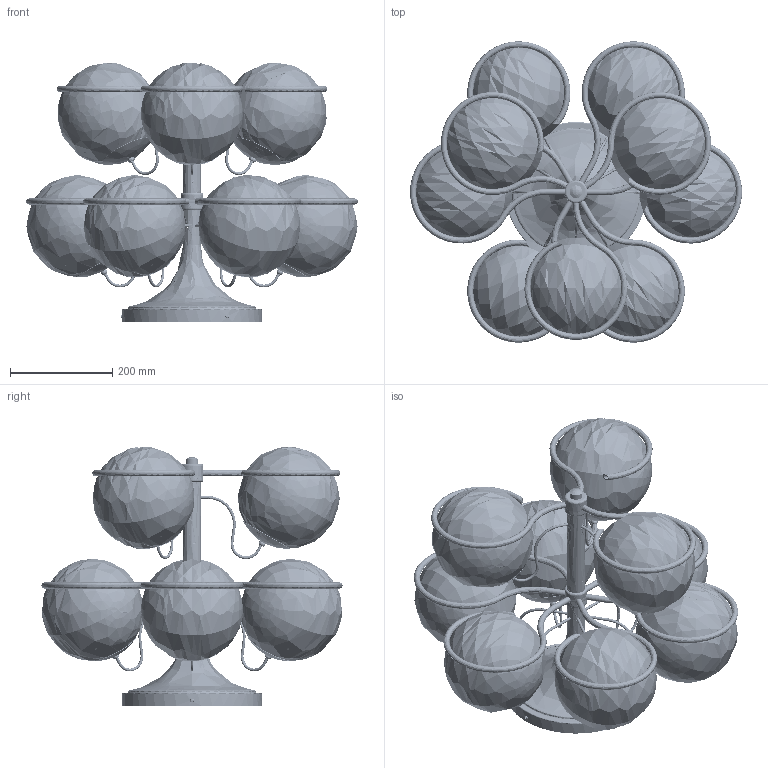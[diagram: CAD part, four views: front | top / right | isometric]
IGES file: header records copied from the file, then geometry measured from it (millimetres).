
Global section: file name: /Volumes/GoogleDrive-108854687723406204818/Shared drives/Ufficio Tecnico/Prodotti/T08 Sfere/Astep - CAD - Model 2042-9/Model 2042:9.igs; native system: Rhinoceros ( Jul 15 2021 ); preprocessor: Trout Lake IGES 012 Jul 15 2021; date: 220621.090107; units: millimetre
Bounding box: 650 x 589.84 x 507.15 mm (x, y, z)
Surface area: 3098401.5 mm2 (no closed solid volume)
Topology: 0 solids, 0 shells, 972 faces, 25405 edges, 25302 vertices
Faces by surface type: bspline 972
